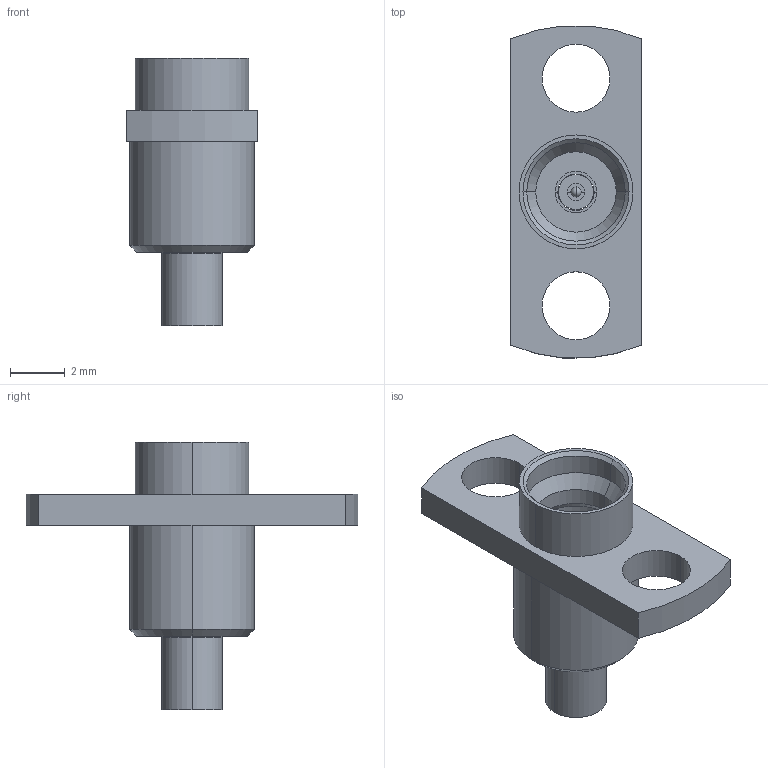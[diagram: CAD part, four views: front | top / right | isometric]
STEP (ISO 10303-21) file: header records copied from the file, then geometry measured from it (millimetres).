
FILE_DESCRIPTION (( 'STEP AP203' ), '1' );
FILE_NAME ('SF1233-6000.STEP', '2017-05-09T12:43:31', ( 'user' ), ( '' ), 'SwSTEP 2.0', 'SolidWorks 2016', '' );
FILE_SCHEMA (( 'CONFIG_CONTROL_DESIGN' ));
Length unit declared in the file: inch
Products named in the file (6): 244-12-034; 012-12-076; 033-12-034; 244-12-024; SF1233-6000; 012-12-077
Assembly tree (5 placements, depth 2):
  SF1233-6000
    012-12-077
    244-12-034
    012-12-076
    033-12-034
    244-12-024
Bounding box: 4.78 x 12.15 x 9.8 mm (x, y, z)
Volume: 77.3 mm3; surface area: 363.7 mm2
Topology: 5 solids, 5 shells, 78 faces, 168 edges, 100 vertices
Faces by surface type: cylinder 38, cone 20, plane 14, sphere 4, torus 2
Entity records: 2772 total; most frequent: DIRECTION 436, CARTESIAN_POINT 350, ORIENTED_EDGE 328, AXIS2_PLACEMENT_3D 186, EDGE_CURVE 164, VERTEX_POINT 100, CIRCLE 100, EDGE_LOOP 94
